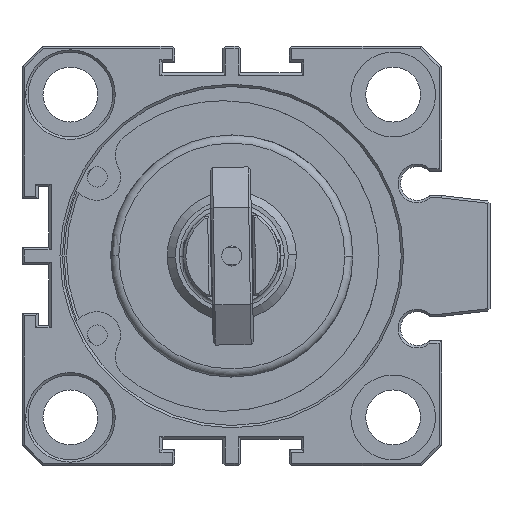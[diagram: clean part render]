
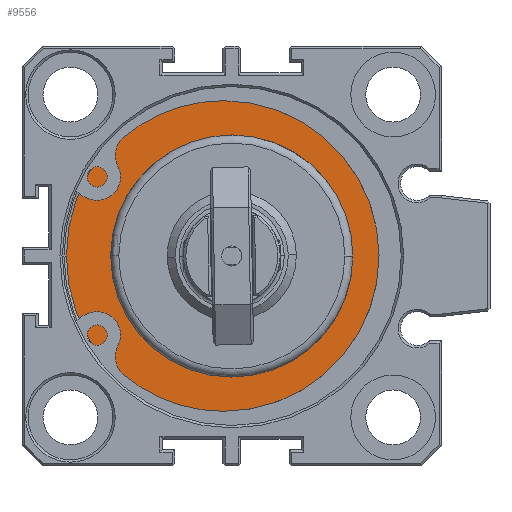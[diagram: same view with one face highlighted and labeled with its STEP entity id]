
A CAD part, front view. The second image highlights one B-rep face of the part: STEP entity #9556.
In plain terms, the highlighted planar face has unit normal (0, -1, 0).
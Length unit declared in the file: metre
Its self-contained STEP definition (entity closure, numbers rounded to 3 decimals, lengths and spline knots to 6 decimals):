
#3547=CARTESIAN_POINT('',(0.,-0.0291,0.));
#3548=DIRECTION('',(0.,1.,0.));
#3549=DIRECTION('',(-1.,0.,0.));
#3550=AXIS2_PLACEMENT_3D('',#3547,#3548,#3549);
#3552=CARTESIAN_POINT('',(0.,-0.0291,0.));
#3553=DIRECTION('',(0.,1.,0.));
#3554=DIRECTION('',(1.,0.,0.));
#3555=AXIS2_PLACEMENT_3D('',#3552,#3553,#3554);
#3557=CARTESIAN_POINT('',(0.,-0.0291,0.));
#3558=DIRECTION('',(0.,-1.,0.));
#3559=DIRECTION('',(-1.,0.,0.));
#3560=AXIS2_PLACEMENT_3D('',#3557,#3558,#3559);
#3562=CARTESIAN_POINT('',(0.,-0.0291,0.));
#3563=DIRECTION('',(0.,-1.,0.));
#3564=DIRECTION('',(1.,0.,0.));
#3565=AXIS2_PLACEMENT_3D('',#3562,#3563,#3564);
#4461=CARTESIAN_POINT('',(0.0205,-0.0291,0.));
#4462=VERTEX_POINT('',#4461);
#4463=CARTESIAN_POINT('',(-0.0205,-0.0291,0.));
#4464=VERTEX_POINT('',#4463);
#4467=CARTESIAN_POINT('',(0.015,-0.0291,0.));
#4468=CARTESIAN_POINT('',(-0.015,-0.0291,0.));
#4469=VERTEX_POINT('',#4467);
#4470=VERTEX_POINT('',#4468);
#9541=CARTESIAN_POINT('',(0.,-0.0291,0.));
#9542=DIRECTION('',(0.,1.,0.));
#9543=DIRECTION('',(1.,0.,0.));
#9544=AXIS2_PLACEMENT_3D('',#9541,#9542,#9543);
#9545=PLANE('',#9544);
#9546=ORIENTED_EDGE('',*,*,#9536,.F.);
#9547=ORIENTED_EDGE('',*,*,#9522,.F.);
#9548=EDGE_LOOP('',(#9546,#9547));
#9549=FACE_OUTER_BOUND('',#9548,.F.);
#9551=ORIENTED_EDGE('',*,*,#9550,.F.);
#9553=ORIENTED_EDGE('',*,*,#9552,.F.);
#9554=EDGE_LOOP('',(#9551,#9553));
#9555=FACE_BOUND('',#9554,.F.);
#9556=ADVANCED_FACE('',(#9549,#9555),#9545,.F.);
#3551=CIRCLE('',#3550,0.015);
#3556=CIRCLE('',#3555,0.015);
#3561=CIRCLE('',#3560,0.0205);
#3566=CIRCLE('',#3565,0.0205);
#9522=EDGE_CURVE('',#4462,#4464,#3566,.T.);
#9536=EDGE_CURVE('',#4464,#4462,#3561,.T.);
#9550=EDGE_CURVE('',#4470,#4469,#3551,.T.);
#9552=EDGE_CURVE('',#4469,#4470,#3556,.T.);
